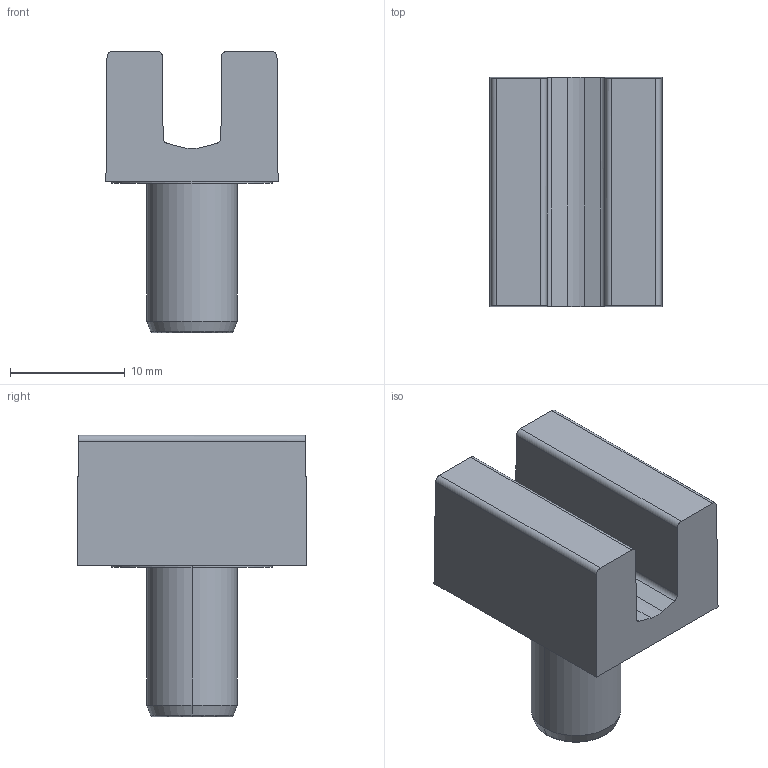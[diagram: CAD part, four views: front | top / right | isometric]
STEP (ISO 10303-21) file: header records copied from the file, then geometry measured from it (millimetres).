
FILE_DESCRIPTION (( 'STEP AP203' ), '1' );
FILE_NAME ('013.100.020.STEP', '2020-11-02T09:22:29', ( '' ), ( '' ), 'SwSTEP 2.0', 'SolidWorks 2018', '' );
FILE_SCHEMA (( 'CONFIG_CONTROL_DESIGN' ));
Length unit declared in the file: millimetre
Products named in the file (1): 013.100.020
Bounding box: 15 x 20 x 24.5 mm (x, y, z)
Volume: 3170.6 mm3; surface area: 1911.2 mm2
Topology: 1 solids, 1 shells, 28 faces, 68 edges, 44 vertices
Faces by surface type: plane 13, cylinder 11, torus 2, cone 2
Entity records: 891 total; most frequent: CARTESIAN_POINT 183, ORIENTED_EDGE 136, DIRECTION 126, EDGE_CURVE 68, VERTEX_POINT 44, AXIS2_PLACEMENT_3D 43, LINE 40, VECTOR 40
